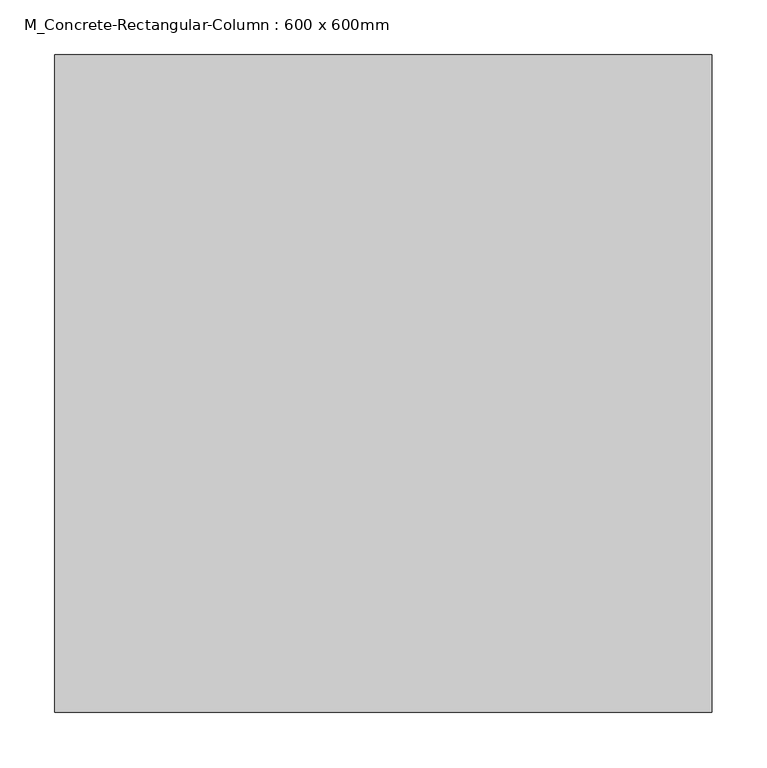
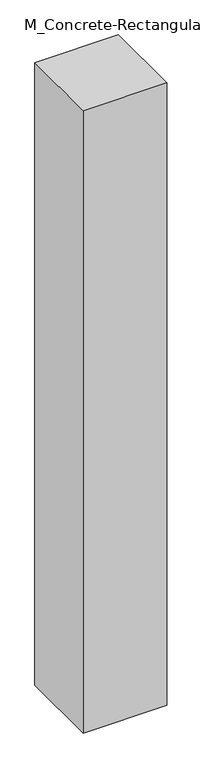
"""IFC4 building model written with IfcOpenShell, lengths in millimetres: column geometry, M_Concrete-Rectangular-Column : 600 x 600mm."""

from ifc_helpers import new_model, si_unit, frame, origin, place, context, project, spatial, polyline, outline, extrude, source, transform, mapped, element, save


def m_concrete_rectangular_column_600_x_600mm_0fd2129b(model_context):
    return source(origin(), model_context, "Body", "SweptSolid", [
        extrude(outline(polyline([(300.0, 300.0), (300.0, -300.0), (-300.0, -300.0), (-300.0, 300.0), (300.0, 300.0)])), frame((0.0, 0.0, -1677.0), z_axis=(0.0, 0.0, 1.0), x_axis=(1.0, 0.0, 0.0)), (0.0, 0.0, 1.0), 4725.0),
    ])


if __name__ == "__main__":
    model = new_model("IFC4")
    model_context = context("Model", 3, world=origin())
    ifc_project = project(units=[si_unit("LENGTHUNIT", "METRE", prefix="MILLI")], contexts=[model_context])
    site = spatial("IfcSite", under=ifc_project)
    building = spatial("IfcBuilding", under=site)
    placement = place(None, origin())
    m_concrete_rectangular_column_600_x_600mm_shape = m_concrete_rectangular_column_600_x_600mm_0fd2129b(model_context)
    element("IfcColumn", 1, ObjectType="M_Concrete-Rectangular-Column : 600 x 600mm", at=placement, inside=building, context=model_context, shape_type="MappedRepresentation", body=[
        mapped(m_concrete_rectangular_column_600_x_600mm_shape, transform((0.0, 0.0, 0.0), x_axis=(1.0, 0.0, 0.0), y_axis=(0.0, 1.0, 0.0), z_axis=(0.0, 0.0, 1.0))),
    ])
    save(model, "model.ifc")
